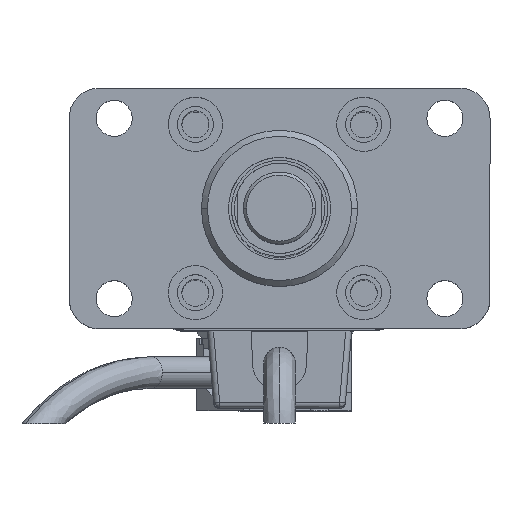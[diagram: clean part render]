
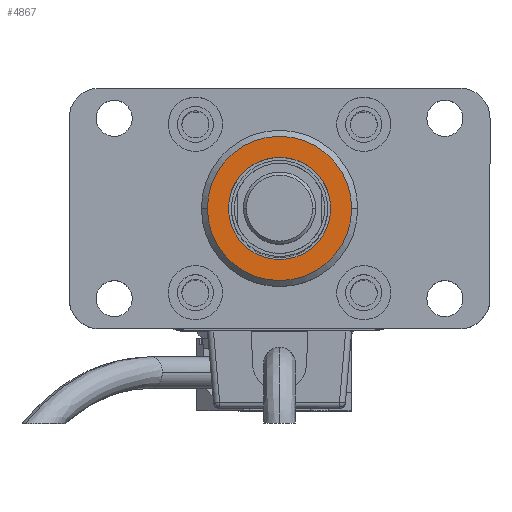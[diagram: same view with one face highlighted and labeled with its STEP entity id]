
A CAD part, top view. The second image highlights one B-rep face of the part: STEP entity #4867.
In plain terms, the highlighted planar face has unit normal (0, 0, 1) as drawn and (0, 0, -1) by its records, which use the part's own axes.
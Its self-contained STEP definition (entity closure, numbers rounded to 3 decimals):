
#766 = EDGE_LOOP ( 'NONE', ( #25348, #16473 ) ) ;
#1347 = DIRECTION ( 'NONE',  ( 0., 0., -1. ) ) ;
#2334 = EDGE_LOOP ( 'NONE', ( #24217, #7999 ) ) ;
#2415 = EDGE_CURVE ( 'NONE', #19055, #7078, #24783, .T. ) ;
#3727 = CARTESIAN_POINT ( 'NONE',  ( 0., 0., -3. ) ) ;
#4867 = ADVANCED_FACE ( 'NONE', ( #17786, #9549 ), #10422, .T. ) ;
#5526 = CARTESIAN_POINT ( 'NONE',  ( -12., 0., -3. ) ) ;
#7078 = VERTEX_POINT ( 'NONE', #17510 ) ;
#7154 = CARTESIAN_POINT ( 'NONE',  ( 0., 0., -3. ) ) ;
#7668 = EDGE_CURVE ( 'NONE', #27304, #8940, #20061, .T. ) ;
#7999 = ORIENTED_EDGE ( 'NONE', *, *, #18632, .F. ) ;
#8270 = DIRECTION ( 'NONE',  ( -1., 0., 0. ) ) ;
#8940 = VERTEX_POINT ( 'NONE', #19340 ) ;
#9549 = FACE_BOUND ( 'NONE', #2334, .T. ) ;
#9561 = DIRECTION ( 'NONE',  ( -1., 0., 0. ) ) ;
#10336 = DIRECTION ( 'NONE',  ( -1., 0., 0. ) ) ;
#10394 = AXIS2_PLACEMENT_3D ( 'NONE', #23533, #1347, #10336 ) ;
#10422 = PLANE ( 'NONE',  #10394 ) ;
#10966 = CIRCLE ( 'NONE', #20789, 8.5 ) ;
#12087 = CARTESIAN_POINT ( 'NONE',  ( 0., 0., -3. ) ) ;
#14099 = EDGE_CURVE ( 'NONE', #7078, #19055, #25920, .T. ) ;
#14488 = AXIS2_PLACEMENT_3D ( 'NONE', #21273, #27664, #17001 ) ;
#14757 = DIRECTION ( 'NONE',  ( -1., 0., 0. ) ) ;
#16473 = ORIENTED_EDGE ( 'NONE', *, *, #2415, .T. ) ;
#17001 = DIRECTION ( 'NONE',  ( -1., 0., 0. ) ) ;
#17253 = DIRECTION ( 'NONE',  ( 0., 0., -1. ) ) ;
#17510 = CARTESIAN_POINT ( 'NONE',  ( 12., 0., -3. ) ) ;
#17786 = FACE_OUTER_BOUND ( 'NONE', #766, .T. ) ;
#18632 = EDGE_CURVE ( 'NONE', #8940, #27304, #10966, .T. ) ;
#19055 = VERTEX_POINT ( 'NONE', #5526 ) ;
#19126 = DIRECTION ( 'NONE',  ( 0., 0., -1. ) ) ;
#19340 = CARTESIAN_POINT ( 'NONE',  ( -8.5, 0., -3. ) ) ;
#20061 = CIRCLE ( 'NONE', #14488, 8.5 ) ;
#20789 = AXIS2_PLACEMENT_3D ( 'NONE', #7154, #24954, #9561 ) ;
#20943 = AXIS2_PLACEMENT_3D ( 'NONE', #12087, #17253, #8270 ) ;
#21273 = CARTESIAN_POINT ( 'NONE',  ( 0., 0., -3. ) ) ;
#21622 = AXIS2_PLACEMENT_3D ( 'NONE', #3727, #19126, #14757 ) ;
#23533 = CARTESIAN_POINT ( 'NONE',  ( 0., 0., -3. ) ) ;
#24217 = ORIENTED_EDGE ( 'NONE', *, *, #7668, .F. ) ;
#24783 = CIRCLE ( 'NONE', #21622, 12. ) ;
#24954 = DIRECTION ( 'NONE',  ( 0., 0., -1. ) ) ;
#25348 = ORIENTED_EDGE ( 'NONE', *, *, #14099, .T. ) ;
#25920 = CIRCLE ( 'NONE', #20943, 12. ) ;
#26807 = CARTESIAN_POINT ( 'NONE',  ( 8.5, 0., -3. ) ) ;
#27304 = VERTEX_POINT ( 'NONE', #26807 ) ;
#27664 = DIRECTION ( 'NONE',  ( 0., 0., -1. ) ) ;
